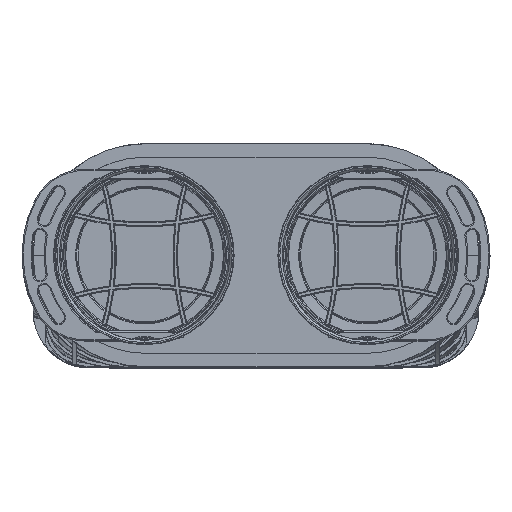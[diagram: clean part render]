
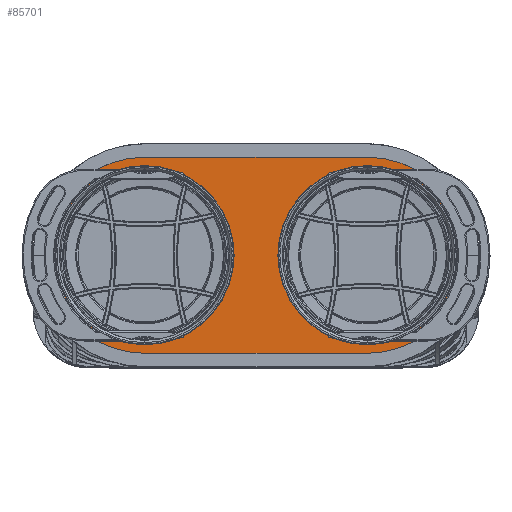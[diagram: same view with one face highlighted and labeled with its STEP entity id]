
A CAD part, top view. The second image highlights one B-rep face of the part: STEP entity #85701.
In plain terms, the highlighted planar face has unit normal (0, 0, 1) as drawn and (0, -1, 0) by its records, which use the part's own axes.
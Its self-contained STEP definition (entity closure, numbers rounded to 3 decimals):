
#69340=CARTESIAN_POINT('',(-50.,-1.75,0.));
#69341=DIRECTION('',(0.,-1.,0.));
#69342=DIRECTION('',(0.,0.,1.));
#69343=AXIS2_PLACEMENT_3D('',#69340,#69341,#69342);
#69345=DIRECTION('',(-1.,0.,0.));
#69346=VECTOR('',#69345,100.);
#69347=CARTESIAN_POINT('',(50.,-1.75,
44.));
#69348=LINE('',#69347,#69346);
#69349=CARTESIAN_POINT('',(50.,-1.75,0.));
#69350=DIRECTION('',(0.,-1.,0.));
#69351=DIRECTION('',(1.,0.,0.));
#69352=AXIS2_PLACEMENT_3D('',#69349,#69350,#69351);
#69354=CARTESIAN_POINT('',(50.,-1.75,0.));
#69355=DIRECTION('',(0.,-1.,0.));
#69356=DIRECTION('',(0.,0.,-1.));
#69357=AXIS2_PLACEMENT_3D('',#69354,#69355,#69356);
#69359=DIRECTION('',(1.,0.,0.));
#69360=VECTOR('',#69359,100.);
#69361=CARTESIAN_POINT('',(-50.,-1.75,
-44.));
#69362=LINE('',#69361,#69360);
#69363=CARTESIAN_POINT('',(50.,-1.75,0.));
#69364=DIRECTION('',(0.,1.,0.));
#69365=DIRECTION('',(-1.,0.,0.));
#69366=AXIS2_PLACEMENT_3D('',#69363,#69364,#69365);
#69368=CARTESIAN_POINT('',(50.,-1.75,0.));
#69369=DIRECTION('',(0.,1.,0.));
#69370=DIRECTION('',(1.,0.,0.));
#69371=AXIS2_PLACEMENT_3D('',#69368,#69369,#69370);
#69373=CARTESIAN_POINT('',(-50.,-1.75,0.));
#69374=DIRECTION('',(0.,1.,0.));
#69375=DIRECTION('',(-1.,0.,0.));
#69376=AXIS2_PLACEMENT_3D('',#69373,#69374,#69375);
#69378=CARTESIAN_POINT('',(-50.,-1.75,0.));
#69379=DIRECTION('',(0.,1.,0.));
#69380=DIRECTION('',(1.,0.,0.));
#69381=AXIS2_PLACEMENT_3D('',#69378,#69379,#69380);
#85304=CARTESIAN_POINT('',(-50.,-1.75,
-44.));
#85305=VERTEX_POINT('',#85304);
#85306=CARTESIAN_POINT('',(-50.,-1.75,44.));
#85307=VERTEX_POINT('',#85306);
#85326=CARTESIAN_POINT('',(50.,-1.75,
-44.));
#85327=VERTEX_POINT('',#85326);
#85332=CARTESIAN_POINT('',(50.,-1.75,
44.));
#85333=VERTEX_POINT('',#85332);
#85334=CARTESIAN_POINT('',(94.,-1.75,0.));
#85335=VERTEX_POINT('',#85334);
#85487=CARTESIAN_POINT('',(9.8,-1.75,
0.));
#85489=VERTEX_POINT('',#85487);
#85491=CARTESIAN_POINT('',(90.2,-1.75,0.));
#85493=VERTEX_POINT('',#85491);
#85495=CARTESIAN_POINT('',(-90.2,-1.75,0.));
#85497=VERTEX_POINT('',#85495);
#85499=CARTESIAN_POINT('',(-9.8,-1.75,
0.));
#85501=VERTEX_POINT('',#85499);
#85673=CARTESIAN_POINT('',(0.,-1.75,0.));
#85674=DIRECTION('',(0.,-1.,0.));
#85675=DIRECTION('',(-1.,0.,0.));
#85676=AXIS2_PLACEMENT_3D('',#85673,#85674,#85675);
#85677=PLANE('',#85676);
#85679=ORIENTED_EDGE('',*,*,#85678,.F.);
#85681=ORIENTED_EDGE('',*,*,#85680,.F.);
#85683=ORIENTED_EDGE('',*,*,#85682,.F.);
#85685=ORIENTED_EDGE('',*,*,#85684,.F.);
#85687=ORIENTED_EDGE('',*,*,#85686,.F.);
#85688=EDGE_LOOP('',(#85679,#85681,#85683,#85685,#85687));
#85689=FACE_OUTER_BOUND('',#85688,.F.);
#85691=ORIENTED_EDGE('',*,*,#85690,.F.);
#85692=ORIENTED_EDGE('',*,*,#85631,.F.);
#85693=EDGE_LOOP('',(#85691,#85692));
#85694=FACE_BOUND('',#85693,.F.);
#85696=ORIENTED_EDGE('',*,*,#85695,.F.);
#85698=ORIENTED_EDGE('',*,*,#85697,.F.);
#85699=EDGE_LOOP('',(#85696,#85698));
#85700=FACE_BOUND('',#85699,.F.);
#85701=ADVANCED_FACE('',(#85689,#85694,#85700),#85677,.T.);
#69344=CIRCLE('',#69343,44.);
#69353=CIRCLE('',#69352,44.);
#69358=CIRCLE('',#69357,44.);
#69367=CIRCLE('',#69366,40.2);
#69372=CIRCLE('',#69371,40.2);
#69377=CIRCLE('',#69376,40.2);
#69382=CIRCLE('',#69381,40.2);
#85631=EDGE_CURVE('',#85493,#85489,#69372,.T.);
#85678=EDGE_CURVE('',#85307,#85305,#69344,.T.);
#85680=EDGE_CURVE('',#85333,#85307,#69348,.T.);
#85682=EDGE_CURVE('',#85335,#85333,#69353,.T.);
#85684=EDGE_CURVE('',#85327,#85335,#69358,.T.);
#85686=EDGE_CURVE('',#85305,#85327,#69362,.T.);
#85690=EDGE_CURVE('',#85489,#85493,#69367,.T.);
#85695=EDGE_CURVE('',#85497,#85501,#69377,.T.);
#85697=EDGE_CURVE('',#85501,#85497,#69382,.T.);
